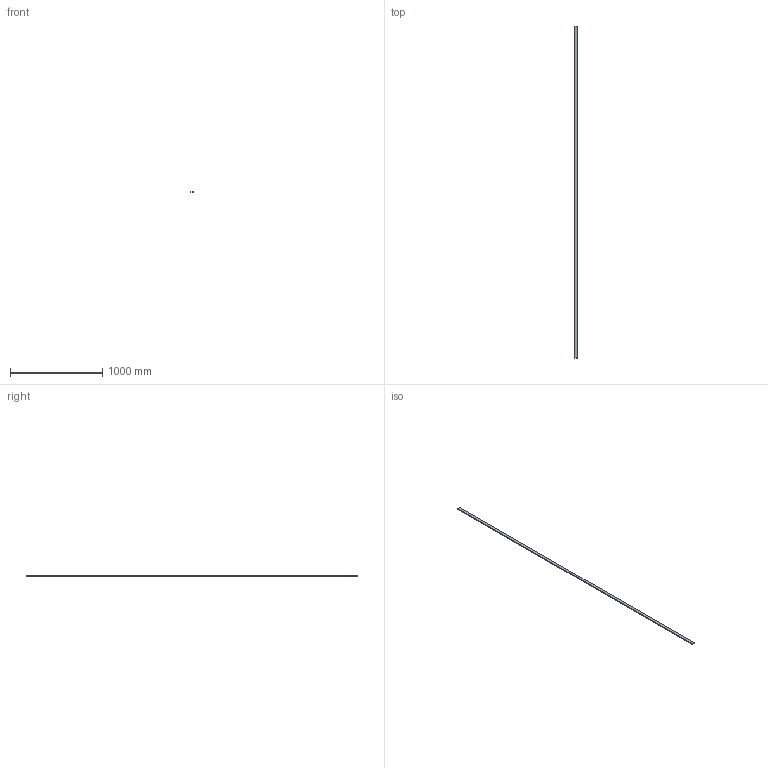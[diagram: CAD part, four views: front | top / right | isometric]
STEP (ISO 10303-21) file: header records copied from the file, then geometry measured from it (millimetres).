
FILE_DESCRIPTION (( 'STEP AP203' ), '1' );
FILE_NAME ('DN51204.STEP', '2025-10-31T07:37:26', ( '' ), ( '' ), 'SwSTEP 2.0', 'SolidWorks 2019', '' );
FILE_SCHEMA (( 'CONFIG_CONTROL_DESIGN' ));
Length unit declared in the file: millimetre
Products named in the file (1): DN51204
Bounding box: 30 x 3600 x 10 mm (x, y, z)
Volume: 1080000 mm3; surface area: 288600 mm2
Topology: 1 solids, 1 shells, 6 faces, 12 edges, 8 vertices
Faces by surface type: plane 6
Entity records: 233 total; most frequent: CARTESIAN_POINT 27, DIRECTION 26, ORIENTED_EDGE 24, EDGE_CURVE 12, VECTOR 12, LINE 12, PERSON_AND_ORGANIZATION 8, VERTEX_POINT 8
